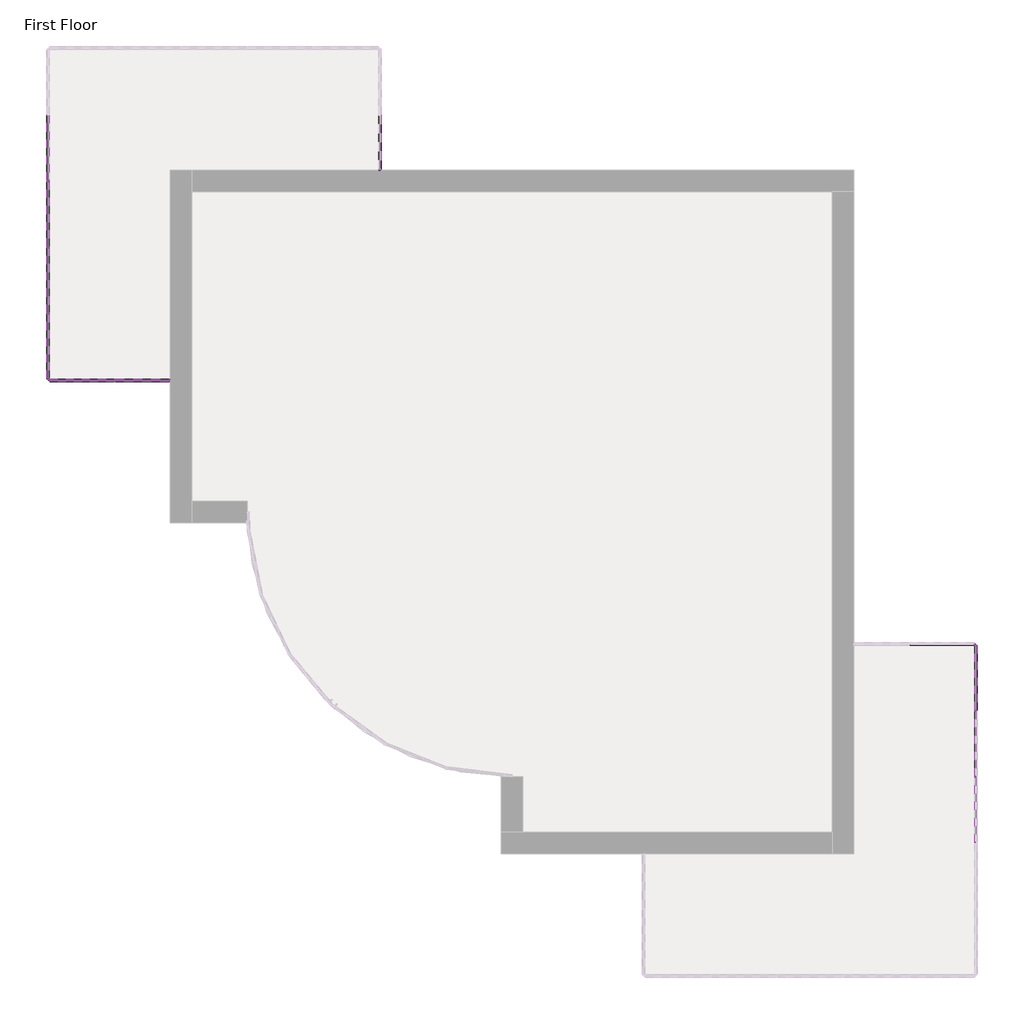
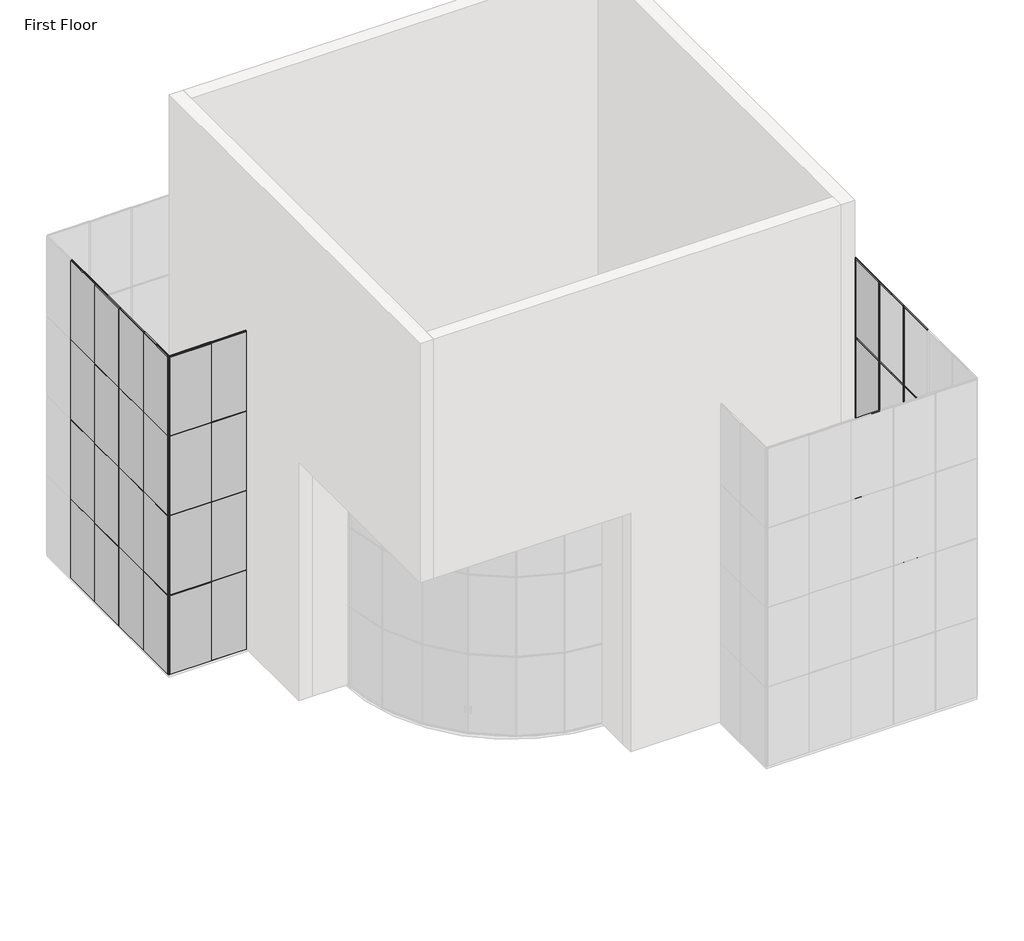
# One storey, part 3 of 4: 92 members, 32 plates.
"""IFC4 building model written with IfcOpenShell, lengths in millimetres."""

from ifc_helpers import new_model, si_unit, origin, place, context, project, spatial, transform, mapped, element, save
from components import member_40ce1a5c, member_5e617a80, member_0d8d9af5, member_74941792, member_cbdb9076, member_7e523723, member_9fd3d903, member_6604d1e0, member_be0b070d, system_panel_glazed_9b7d687a, system_panel_glazed_3ccd4ad1, system_panel_glazed_9a901b4a, system_panel_glazed_ee91e337, system_panel_glazed_2d5e1d3d, system_panel_glazed_37964ea6, system_panel_glazed_a669fc9f, system_panel_glazed_51c864c8

model = new_model("IFC4")

# Units and contexts
model_context = context("Model", 3, world=origin())
ifc_project = project(units=[si_unit("LENGTHUNIT", "METRE", prefix="MILLI")], contexts=[model_context])

# Site, building, storey
site = spatial("IfcSite", under=ifc_project)
building = spatial("IfcBuilding", under=site)
storey = spatial("IfcBuildingStorey", under=building, Name="First Floor", Elevation=0.0)

# Members
placement = place(None, origin())
member_shape = member_40ce1a5c(model_context)
element("IfcMember", 1, ObjectType="Rectangular Mullion : 1\" Square", at=placement, inside=storey, context=model_context, shape_type="MappedRepresentation", body=[
    mapped(member_shape, transform((-10360.9806157, 2362.0139224, 6096.0), x_axis=(0.0, 0.0, 1.0), y_axis=(0.0, -1.0, 0.0), z_axis=(1.0, 0.0, 0.0))),
])
element("IfcMember", 2, ObjectType="Rectangular Mullion : 1\" Square", at=placement, inside=storey, context=model_context, shape_type="MappedRepresentation", body=[
    mapped(member_shape, transform((-10360.9806157, 2362.0139224, 9144.0), x_axis=(0.0, 0.0, 1.0), y_axis=(0.0, -1.0, 0.0), z_axis=(1.0, 0.0, 0.0))),
])
element("IfcMember", 3, ObjectType="Rectangular Mullion : 1\" Square", at=placement, inside=storey, context=model_context, shape_type="MappedRepresentation", body=[
    mapped(member_shape, transform((-10360.9806157, 2362.0139224, 3048.0), x_axis=(0.0, 0.0, 1.0), y_axis=(0.0, -1.0, 0.0), z_axis=(1.0, 0.0, 0.0))),
])
member_2_shape = member_5e617a80(model_context)
element("IfcMember", 4, ObjectType="Rectangular Mullion : 1\" Square", at=placement, inside=storey, context=model_context, shape_type="MappedRepresentation", body=[
    mapped(member_2_shape, transform((-11627.8056157, 2362.0139224, 9144.0), x_axis=(0.0, 0.0, 1.0), y_axis=(0.0, -1.0, 0.0), z_axis=(1.0, 0.0, 0.0))),
])
element("IfcMember", 5, ObjectType="Rectangular Mullion : 1\" Square", at=placement, inside=storey, context=model_context, shape_type="MappedRepresentation", body=[
    mapped(member_2_shape, transform((-11627.8056157, 2362.0139224, 6096.0), x_axis=(0.0, 0.0, 1.0), y_axis=(0.0, -1.0, 0.0), z_axis=(1.0, 0.0, 0.0))),
])
element("IfcMember", 6, ObjectType="Rectangular Mullion : 1\" Square", at=placement, inside=storey, context=model_context, shape_type="MappedRepresentation", body=[
    mapped(member_2_shape, transform((-11627.8056157, 2362.0139224, 3048.0), x_axis=(0.0, 0.0, 1.0), y_axis=(0.0, -1.0, 0.0), z_axis=(1.0, 0.0, 0.0))),
])
element("IfcMember", 7, ObjectType="Rectangular Mullion : 1\" Square", at=placement, inside=storey, context=model_context, shape_type="MappedRepresentation", body=[
    mapped(member_2_shape, transform((-13139.1056157, 2387.4139224, 9144.0), x_axis=(0.0, 0.0, 1.0), y_axis=(-1.0, 0.0, 0.0), z_axis=(0.0, -1.0, 0.0))),
])
element("IfcMember", 8, ObjectType="Rectangular Mullion : 1\" Square", at=placement, inside=storey, context=model_context, shape_type="MappedRepresentation", body=[
    mapped(member_2_shape, transform((-13139.1056157, 2387.4139224, 3048.0), x_axis=(0.0, 0.0, 1.0), y_axis=(-1.0, 0.0, 0.0), z_axis=(0.0, -1.0, 0.0))),
])
element("IfcMember", 9, ObjectType="Rectangular Mullion : 1\" Square", at=placement, inside=storey, context=model_context, shape_type="MappedRepresentation", body=[
    mapped(member_2_shape, transform((-13139.1056157, 2387.4139224, 6096.0), x_axis=(0.0, 0.0, 1.0), y_axis=(-1.0, 0.0, 0.0), z_axis=(0.0, -1.0, 0.0))),
])
element("IfcMember", 10, ObjectType="Rectangular Mullion : 1\" Square", at=placement, inside=storey, context=model_context, shape_type="MappedRepresentation", body=[
    mapped(member_2_shape, transform((8196.8943843, -3759.3860776, 3048.0), x_axis=(0.0, 0.0, 1.0), y_axis=(1.0, 0.0, 0.0), z_axis=(0.0, 1.0, 0.0))),
])
element("IfcMember", 11, ObjectType="Rectangular Mullion : 1\" Square", at=placement, inside=storey, context=model_context, shape_type="MappedRepresentation", body=[
    mapped(member_2_shape, transform((8196.8943843, -3759.3860776, 6096.0), x_axis=(0.0, 0.0, 1.0), y_axis=(1.0, 0.0, 0.0), z_axis=(0.0, 1.0, 0.0))),
])
element("IfcMember", 12, ObjectType="Rectangular Mullion : 1\" Square", at=placement, inside=storey, context=model_context, shape_type="MappedRepresentation", body=[
    mapped(member_2_shape, transform((8196.8943843, -3759.3860776, 9144.0), x_axis=(0.0, 0.0, 1.0), y_axis=(1.0, 0.0, 0.0), z_axis=(0.0, 1.0, 0.0))),
])
member_3_shape = member_0d8d9af5(model_context)
element("IfcMember", 13, ObjectType="Rectangular Mullion : 1\" Square", at=placement, inside=storey, context=model_context, shape_type="MappedRepresentation", body=[
    mapped(member_3_shape, transform((-11602.4056157, 2362.0139224, 0.0), x_axis=(0.0, 0.0, -1.0), y_axis=(0.0, -1.0, 0.0), z_axis=(-1.0, 0.0, 0.0))),
])
member_4_shape = member_74941792(model_context)
element("IfcMember", 14, ObjectType="Rectangular Mullion : 1\" Square", at=placement, inside=storey, context=model_context, shape_type="MappedRepresentation", body=[
    mapped(member_4_shape, transform((-11627.8056157, 2362.0139224, 12192.0), x_axis=(0.0, 0.0, 1.0), y_axis=(0.0, -1.0, 0.0), z_axis=(1.0, 0.0, 0.0))),
])
element("IfcMember", 15, ObjectType="Rectangular Mullion : 1\" Square", at=placement, inside=storey, context=model_context, shape_type="MappedRepresentation", body=[
    mapped(member_4_shape, transform((-13139.1056157, 2387.4139224, 12192.0), x_axis=(0.0, 0.0, 1.0), y_axis=(-1.0, 0.0, 0.0), z_axis=(0.0, -1.0, 0.0))),
])
element("IfcMember", 16, ObjectType="Rectangular Mullion : 1\" Square", at=placement, inside=storey, context=model_context, shape_type="MappedRepresentation", body=[
    mapped(member_4_shape, transform((8196.8943843, -3759.3860776, 12192.0), x_axis=(0.0, 0.0, 1.0), y_axis=(1.0, 0.0, 0.0), z_axis=(0.0, 1.0, 0.0))),
])
member_5_shape = member_cbdb9076(model_context)
element("IfcMember", 17, ObjectType="Rectangular Mullion : 1\" Square", at=placement, inside=storey, context=model_context, shape_type="MappedRepresentation", body=[
    mapped(member_5_shape, transform((-11615.1056157, 2362.0139224, 3048.0), x_axis=(1.0, 0.0, 0.0), y_axis=(0.0, -1.0, 0.0), z_axis=(0.0, 0.0, -1.0))),
])
element("IfcMember", 18, ObjectType="Rectangular Mullion : 1\" Square", at=placement, inside=storey, context=model_context, shape_type="MappedRepresentation", body=[
    mapped(member_5_shape, transform((-11615.1056157, 2362.0139224, 6096.0), x_axis=(1.0, 0.0, 0.0), y_axis=(0.0, -1.0, 0.0), z_axis=(0.0, 0.0, -1.0))),
])
element("IfcMember", 19, ObjectType="Rectangular Mullion : 1\" Square", at=placement, inside=storey, context=model_context, shape_type="MappedRepresentation", body=[
    mapped(member_5_shape, transform((-13139.1056157, 6934.0139224, 3048.0), x_axis=(0.0, -1.0, 0.0), y_axis=(-1.0, 0.0, 0.0), z_axis=(0.0, 0.0, -1.0))),
])
element("IfcMember", 20, ObjectType="Rectangular Mullion : 1\" Square", at=placement, inside=storey, context=model_context, shape_type="MappedRepresentation", body=[
    mapped(member_5_shape, transform((-13139.1056157, 6934.0139224, 6096.0), x_axis=(0.0, -1.0, 0.0), y_axis=(-1.0, 0.0, 0.0), z_axis=(0.0, 0.0, -1.0))),
])
element("IfcMember", 21, ObjectType="Rectangular Mullion : 1\" Square", at=placement, inside=storey, context=model_context, shape_type="MappedRepresentation", body=[
    mapped(member_5_shape, transform((-13139.1056157, 5410.0139224, 3048.0), x_axis=(0.0, -1.0, 0.0), y_axis=(-1.0, 0.0, 0.0), z_axis=(0.0, 0.0, -1.0))),
])
element("IfcMember", 22, ObjectType="Rectangular Mullion : 1\" Square", at=placement, inside=storey, context=model_context, shape_type="MappedRepresentation", body=[
    mapped(member_5_shape, transform((-13139.1056157, 5410.0139224, 6096.0), x_axis=(0.0, -1.0, 0.0), y_axis=(-1.0, 0.0, 0.0), z_axis=(0.0, 0.0, -1.0))),
])
element("IfcMember", 23, ObjectType="Rectangular Mullion : 1\" Square", at=placement, inside=storey, context=model_context, shape_type="MappedRepresentation", body=[
    mapped(member_5_shape, transform((-13139.1056157, 3886.0139224, 3048.0), x_axis=(0.0, -1.0, 0.0), y_axis=(-1.0, 0.0, 0.0), z_axis=(0.0, 0.0, -1.0))),
])
element("IfcMember", 24, ObjectType="Rectangular Mullion : 1\" Square", at=placement, inside=storey, context=model_context, shape_type="MappedRepresentation", body=[
    mapped(member_5_shape, transform((-13139.1056157, 3886.0139224, 6096.0), x_axis=(0.0, -1.0, 0.0), y_axis=(-1.0, 0.0, 0.0), z_axis=(0.0, 0.0, -1.0))),
])
element("IfcMember", 25, ObjectType="Rectangular Mullion : 1\" Square", at=placement, inside=storey, context=model_context, shape_type="MappedRepresentation", body=[
    mapped(member_5_shape, transform((8196.8943843, -6781.9860776, 6096.0), x_axis=(0.0, 1.0, 0.0), y_axis=(1.0, 0.0, 0.0), z_axis=(0.0, 0.0, -1.0))),
])
element("IfcMember", 26, ObjectType="Rectangular Mullion : 1\" Square", at=placement, inside=storey, context=model_context, shape_type="MappedRepresentation", body=[
    mapped(member_5_shape, transform((8196.8943843, -5257.9860776, 3048.0), x_axis=(0.0, 1.0, 0.0), y_axis=(1.0, 0.0, 0.0), z_axis=(0.0, 0.0, -1.0))),
])
element("IfcMember", 27, ObjectType="Rectangular Mullion : 1\" Square", at=placement, inside=storey, context=model_context, shape_type="MappedRepresentation", body=[
    mapped(member_5_shape, transform((8196.8943843, -5257.9860776, 6096.0), x_axis=(0.0, 1.0, 0.0), y_axis=(1.0, 0.0, 0.0), z_axis=(0.0, 0.0, -1.0))),
])
element("IfcMember", 28, ObjectType="Rectangular Mullion : 1\" Square", at=placement, inside=storey, context=model_context, shape_type="MappedRepresentation", body=[
    mapped(member_5_shape, transform((-11615.1056157, 2362.0139224, 9144.0), x_axis=(1.0, 0.0, 0.0), y_axis=(0.0, -1.0, 0.0), z_axis=(0.0, 0.0, -1.0))),
])
element("IfcMember", 29, ObjectType="Rectangular Mullion : 1\" Square", at=placement, inside=storey, context=model_context, shape_type="MappedRepresentation", body=[
    mapped(member_5_shape, transform((-13139.1056157, 6934.0139224, 9144.0), x_axis=(0.0, -1.0, 0.0), y_axis=(-1.0, 0.0, 0.0), z_axis=(0.0, 0.0, -1.0))),
])
element("IfcMember", 30, ObjectType="Rectangular Mullion : 1\" Square", at=placement, inside=storey, context=model_context, shape_type="MappedRepresentation", body=[
    mapped(member_5_shape, transform((-13139.1056157, 5410.0139224, 9144.0), x_axis=(0.0, -1.0, 0.0), y_axis=(-1.0, 0.0, 0.0), z_axis=(0.0, 0.0, -1.0))),
])
element("IfcMember", 31, ObjectType="Rectangular Mullion : 1\" Square", at=placement, inside=storey, context=model_context, shape_type="MappedRepresentation", body=[
    mapped(member_5_shape, transform((-13139.1056157, 3886.0139224, 9144.0), x_axis=(0.0, -1.0, 0.0), y_axis=(-1.0, 0.0, 0.0), z_axis=(0.0, 0.0, -1.0))),
])
element("IfcMember", 32, ObjectType="Rectangular Mullion : 1\" Square", at=placement, inside=storey, context=model_context, shape_type="MappedRepresentation", body=[
    mapped(member_5_shape, transform((8196.8943843, -6781.9860776, 9144.0), x_axis=(0.0, 1.0, 0.0), y_axis=(1.0, 0.0, 0.0), z_axis=(0.0, 0.0, -1.0))),
])
element("IfcMember", 33, ObjectType="Rectangular Mullion : 1\" Square", at=placement, inside=storey, context=model_context, shape_type="MappedRepresentation", body=[
    mapped(member_5_shape, transform((8196.8943843, -5257.9860776, 9144.0), x_axis=(0.0, 1.0, 0.0), y_axis=(1.0, 0.0, 0.0), z_axis=(0.0, 0.0, -1.0))),
])
element("IfcMember", 34, ObjectType="Rectangular Mullion : 1\" Square", at=placement, inside=storey, context=model_context, shape_type="MappedRepresentation", body=[
    mapped(member_5_shape, transform((-11615.1056157, 2362.0139224, 0.0), x_axis=(1.0, 0.0, 0.0), y_axis=(0.0, -1.0, 0.0), z_axis=(0.0, 0.0, -1.0))),
])
element("IfcMember", 35, ObjectType="Rectangular Mullion : 1\" Square", at=placement, inside=storey, context=model_context, shape_type="MappedRepresentation", body=[
    mapped(member_5_shape, transform((-13139.1056157, 6934.0139224, 0.0), x_axis=(0.0, -1.0, 0.0), y_axis=(-1.0, 0.0, 0.0), z_axis=(0.0, 0.0, -1.0))),
])
element("IfcMember", 36, ObjectType="Rectangular Mullion : 1\" Square", at=placement, inside=storey, context=model_context, shape_type="MappedRepresentation", body=[
    mapped(member_5_shape, transform((-13139.1056157, 5410.0139224, 0.0), x_axis=(0.0, -1.0, 0.0), y_axis=(-1.0, 0.0, 0.0), z_axis=(0.0, 0.0, -1.0))),
])
element("IfcMember", 37, ObjectType="Rectangular Mullion : 1\" Square", at=placement, inside=storey, context=model_context, shape_type="MappedRepresentation", body=[
    mapped(member_5_shape, transform((-13139.1056157, 3886.0139224, 0.0), x_axis=(0.0, -1.0, 0.0), y_axis=(-1.0, 0.0, 0.0), z_axis=(0.0, 0.0, -1.0))),
])
element("IfcMember", 38, ObjectType="Rectangular Mullion : 1\" Square", at=placement, inside=storey, context=model_context, shape_type="MappedRepresentation", body=[
    mapped(member_5_shape, transform((8196.8943843, -6781.9860776, 0.0), x_axis=(0.0, 1.0, 0.0), y_axis=(1.0, 0.0, 0.0), z_axis=(0.0, 0.0, -1.0))),
])
element("IfcMember", 39, ObjectType="Rectangular Mullion : 1\" Square", at=placement, inside=storey, context=model_context, shape_type="MappedRepresentation", body=[
    mapped(member_5_shape, transform((8196.8943843, -5257.9860776, 0.0), x_axis=(0.0, 1.0, 0.0), y_axis=(1.0, 0.0, 0.0), z_axis=(0.0, 0.0, -1.0))),
])
element("IfcMember", 40, ObjectType="Rectangular Mullion : 1\" Square", at=placement, inside=storey, context=model_context, shape_type="MappedRepresentation", body=[
    mapped(member_4_shape, transform((-13113.7056157, 2362.0139224, 0.0), x_axis=(0.0, 0.0, -1.0), y_axis=(0.0, -1.0, 0.0), z_axis=(-1.0, 0.0, 0.0))),
])
element("IfcMember", 41, ObjectType="Rectangular Mullion : 1\" Square", at=placement, inside=storey, context=model_context, shape_type="MappedRepresentation", body=[
    mapped(member_4_shape, transform((-13139.1056157, 3873.3139224, 0.0), x_axis=(0.0, 0.0, -1.0), y_axis=(-1.0, 0.0, 0.0), z_axis=(0.0, 1.0, 0.0))),
])
element("IfcMember", 42, ObjectType="Rectangular Mullion : 1\" Square", at=placement, inside=storey, context=model_context, shape_type="MappedRepresentation", body=[
    mapped(member_4_shape, transform((8196.8943843, -5245.2860776, 0.0), x_axis=(0.0, 0.0, -1.0), y_axis=(1.0, 0.0, 0.0), z_axis=(0.0, -1.0, 0.0))),
])
element("IfcMember", 43, ObjectType="Rectangular Mullion : 1\" Square", at=placement, inside=storey, context=model_context, shape_type="MappedRepresentation", body=[
    mapped(member_4_shape, transform((8171.4943843, -3733.9860776, 0.0), x_axis=(0.0, 0.0, -1.0), y_axis=(0.0, 1.0, 0.0), z_axis=(1.0, 0.0, 0.0))),
])
element("IfcMember", 44, ObjectType="Rectangular Mullion : 1\" Square", at=placement, inside=storey, context=model_context, shape_type="MappedRepresentation", body=[
    mapped(member_3_shape, transform((-10360.9806157, 2362.0139224, 12192.0), x_axis=(0.0, 0.0, 1.0), y_axis=(0.0, -1.0, 0.0), z_axis=(1.0, 0.0, 0.0))),
])
member_6_shape = member_7e523723(model_context)
element("IfcMember", 45, ObjectType="Rectangular Mullion : 1\" Square", at=placement, inside=storey, context=model_context, shape_type="MappedRepresentation", body=[
    mapped(member_6_shape, transform((-13139.1056157, 2362.0139224, 12192.0), x_axis=(-1.0, 0.0, 0.0), y_axis=(0.0, -1.0, 0.0), z_axis=(0.0, 0.0, 1.0))),
])
element("IfcMember", 46, ObjectType="Rectangular Mullion : 1\" Square", at=placement, inside=storey, context=model_context, shape_type="MappedRepresentation", body=[
    mapped(member_6_shape, transform((8196.8943843, -3733.9860776, 12192.0), x_axis=(1.0, 0.0, 0.0), y_axis=(0.0, 1.0, 0.0), z_axis=(0.0, 0.0, 1.0))),
])
element("IfcMember", 47, ObjectType="Rectangular Mullion : 1\" Square", at=placement, inside=storey, context=model_context, shape_type="MappedRepresentation", body=[
    mapped(member_6_shape, transform((-5519.1056157, 7178.4889224, 12192.0), x_axis=(0.0, -1.0, 0.0), y_axis=(1.0, 0.0, 0.0), z_axis=(0.0, 0.0, 1.0))),
])
element("IfcMember", 48, ObjectType="Rectangular Mullion : 1\" Square", at=placement, inside=storey, context=model_context, shape_type="MappedRepresentation", body=[
    mapped(member_6_shape, transform((-10335.5806157, 2362.0139224, 3048.0), x_axis=(1.0, 0.0, 0.0), y_axis=(0.0, -1.0, 0.0), z_axis=(0.0, 0.0, -1.0))),
])
element("IfcMember", 49, ObjectType="Rectangular Mullion : 1\" Square", at=placement, inside=storey, context=model_context, shape_type="MappedRepresentation", body=[
    mapped(member_6_shape, transform((-10335.5806157, 2362.0139224, 6096.0), x_axis=(1.0, 0.0, 0.0), y_axis=(0.0, -1.0, 0.0), z_axis=(0.0, 0.0, -1.0))),
])
element("IfcMember", 50, ObjectType="Rectangular Mullion : 1\" Square", at=placement, inside=storey, context=model_context, shape_type="MappedRepresentation", body=[
    mapped(member_6_shape, transform((-13139.1056157, 2362.0139224, 3048.0), x_axis=(0.0, -1.0, 0.0), y_axis=(-1.0, 0.0, 0.0), z_axis=(0.0, 0.0, -1.0))),
])
element("IfcMember", 51, ObjectType="Rectangular Mullion : 1\" Square", at=placement, inside=storey, context=model_context, shape_type="MappedRepresentation", body=[
    mapped(member_6_shape, transform((-13139.1056157, 2362.0139224, 6096.0), x_axis=(0.0, -1.0, 0.0), y_axis=(-1.0, 0.0, 0.0), z_axis=(0.0, 0.0, -1.0))),
])
element("IfcMember", 52, ObjectType="Rectangular Mullion : 1\" Square", at=placement, inside=storey, context=model_context, shape_type="MappedRepresentation", body=[
    mapped(member_6_shape, transform((8196.8943843, -3733.9860776, 3048.0), x_axis=(0.0, 1.0, 0.0), y_axis=(1.0, 0.0, 0.0), z_axis=(0.0, 0.0, -1.0))),
])
element("IfcMember", 53, ObjectType="Rectangular Mullion : 1\" Square", at=placement, inside=storey, context=model_context, shape_type="MappedRepresentation", body=[
    mapped(member_6_shape, transform((8196.8943843, -3733.9860776, 6096.0), x_axis=(0.0, 1.0, 0.0), y_axis=(1.0, 0.0, 0.0), z_axis=(0.0, 0.0, -1.0))),
])
element("IfcMember", 54, ObjectType="Rectangular Mullion : 1\" Square", at=placement, inside=storey, context=model_context, shape_type="MappedRepresentation", body=[
    mapped(member_6_shape, transform((-10335.5806157, 2362.0139224, 9144.0), x_axis=(1.0, 0.0, 0.0), y_axis=(0.0, -1.0, 0.0), z_axis=(0.0, 0.0, -1.0))),
])
element("IfcMember", 55, ObjectType="Rectangular Mullion : 1\" Square", at=placement, inside=storey, context=model_context, shape_type="MappedRepresentation", body=[
    mapped(member_6_shape, transform((-13139.1056157, 2362.0139224, 9144.0), x_axis=(0.0, -1.0, 0.0), y_axis=(-1.0, 0.0, 0.0), z_axis=(0.0, 0.0, -1.0))),
])
element("IfcMember", 56, ObjectType="Rectangular Mullion : 1\" Square", at=placement, inside=storey, context=model_context, shape_type="MappedRepresentation", body=[
    mapped(member_6_shape, transform((8196.8943843, -3733.9860776, 9144.0), x_axis=(0.0, 1.0, 0.0), y_axis=(1.0, 0.0, 0.0), z_axis=(0.0, 0.0, -1.0))),
])
element("IfcMember", 57, ObjectType="Rectangular Mullion : 1\" Square", at=placement, inside=storey, context=model_context, shape_type="MappedRepresentation", body=[
    mapped(member_6_shape, transform((-13139.1056157, 2362.0139224, 3048.0), x_axis=(-1.0, 0.0, 0.0), y_axis=(0.0, -1.0, 0.0), z_axis=(0.0, 0.0, 1.0))),
])
element("IfcMember", 58, ObjectType="Rectangular Mullion : 1\" Square", at=placement, inside=storey, context=model_context, shape_type="MappedRepresentation", body=[
    mapped(member_6_shape, transform((8196.8943843, -3733.9860776, 3048.0), x_axis=(1.0, 0.0, 0.0), y_axis=(0.0, 1.0, 0.0), z_axis=(0.0, 0.0, 1.0))),
])
element("IfcMember", 59, ObjectType="Rectangular Mullion : 1\" Square", at=placement, inside=storey, context=model_context, shape_type="MappedRepresentation", body=[
    mapped(member_6_shape, transform((-5519.1056157, 7178.4889224, 3048.0), x_axis=(0.0, -1.0, 0.0), y_axis=(1.0, 0.0, 0.0), z_axis=(0.0, 0.0, 1.0))),
])
element("IfcMember", 60, ObjectType="Rectangular Mullion : 1\" Square", at=placement, inside=storey, context=model_context, shape_type="MappedRepresentation", body=[
    mapped(member_6_shape, transform((-13139.1056157, 2362.0139224, 6096.0), x_axis=(-1.0, 0.0, 0.0), y_axis=(0.0, -1.0, 0.0), z_axis=(0.0, 0.0, 1.0))),
])
element("IfcMember", 61, ObjectType="Rectangular Mullion : 1\" Square", at=placement, inside=storey, context=model_context, shape_type="MappedRepresentation", body=[
    mapped(member_6_shape, transform((-13139.1056157, 2362.0139224, 9144.0), x_axis=(-1.0, 0.0, 0.0), y_axis=(0.0, -1.0, 0.0), z_axis=(0.0, 0.0, 1.0))),
])
element("IfcMember", 62, ObjectType="Rectangular Mullion : 1\" Square", at=placement, inside=storey, context=model_context, shape_type="MappedRepresentation", body=[
    mapped(member_6_shape, transform((8196.8943843, -3733.9860776, 6096.0), x_axis=(1.0, 0.0, 0.0), y_axis=(0.0, 1.0, 0.0), z_axis=(0.0, 0.0, 1.0))),
])
element("IfcMember", 63, ObjectType="Rectangular Mullion : 1\" Square", at=placement, inside=storey, context=model_context, shape_type="MappedRepresentation", body=[
    mapped(member_6_shape, transform((8196.8943843, -3733.9860776, 9144.0), x_axis=(1.0, 0.0, 0.0), y_axis=(0.0, 1.0, 0.0), z_axis=(0.0, 0.0, 1.0))),
])
element("IfcMember", 64, ObjectType="Rectangular Mullion : 1\" Square", at=placement, inside=storey, context=model_context, shape_type="MappedRepresentation", body=[
    mapped(member_6_shape, transform((-5519.1056157, 7178.4889224, 6096.0), x_axis=(0.0, -1.0, 0.0), y_axis=(1.0, 0.0, 0.0), z_axis=(0.0, 0.0, 1.0))),
])
element("IfcMember", 65, ObjectType="Rectangular Mullion : 1\" Square", at=placement, inside=storey, context=model_context, shape_type="MappedRepresentation", body=[
    mapped(member_6_shape, transform((-5519.1056157, 7178.4889224, 9144.0), x_axis=(0.0, -1.0, 0.0), y_axis=(1.0, 0.0, 0.0), z_axis=(0.0, 0.0, 1.0))),
])
element("IfcMember", 66, ObjectType="Rectangular Mullion : 1\" Square", at=placement, inside=storey, context=model_context, shape_type="MappedRepresentation", body=[
    mapped(member_6_shape, transform((-10335.5806157, 2362.0139224, 0.0), x_axis=(1.0, 0.0, 0.0), y_axis=(0.0, -1.0, 0.0), z_axis=(0.0, 0.0, -1.0))),
])
element("IfcMember", 67, ObjectType="Rectangular Mullion : 1\" Square", at=placement, inside=storey, context=model_context, shape_type="MappedRepresentation", body=[
    mapped(member_6_shape, transform((-13139.1056157, 2362.0139224, 0.0), x_axis=(0.0, -1.0, 0.0), y_axis=(-1.0, 0.0, 0.0), z_axis=(0.0, 0.0, -1.0))),
])
element("IfcMember", 68, ObjectType="Rectangular Mullion : 1\" Square", at=placement, inside=storey, context=model_context, shape_type="MappedRepresentation", body=[
    mapped(member_6_shape, transform((8196.8943843, -3733.9860776, 0.0), x_axis=(0.0, 1.0, 0.0), y_axis=(1.0, 0.0, 0.0), z_axis=(0.0, 0.0, -1.0))),
])
member_7_shape = member_9fd3d903(model_context)
element("IfcMember", 69, ObjectType="Rectangular Mullion : 1\" Square", at=placement, inside=storey, context=model_context, shape_type="MappedRepresentation", body=[
    mapped(member_7_shape, transform((-13139.1056157, 6946.7139224, 3048.0), x_axis=(0.0, 0.0, 1.0), y_axis=(-1.0, 0.0, 0.0), z_axis=(0.0, -1.0, 0.0))),
])
element("IfcMember", 70, ObjectType="Rectangular Mullion : 1\" Square", at=placement, inside=storey, context=model_context, shape_type="MappedRepresentation", body=[
    mapped(member_7_shape, transform((-13139.1056157, 5422.7139224, 3048.0), x_axis=(0.0, 0.0, 1.0), y_axis=(-1.0, 0.0, 0.0), z_axis=(0.0, -1.0, 0.0))),
])
element("IfcMember", 71, ObjectType="Rectangular Mullion : 1\" Square", at=placement, inside=storey, context=model_context, shape_type="MappedRepresentation", body=[
    mapped(member_7_shape, transform((-13139.1056157, 3898.7139224, 3048.0), x_axis=(0.0, 0.0, 1.0), y_axis=(-1.0, 0.0, 0.0), z_axis=(0.0, -1.0, 0.0))),
])
element("IfcMember", 72, ObjectType="Rectangular Mullion : 1\" Square", at=placement, inside=storey, context=model_context, shape_type="MappedRepresentation", body=[
    mapped(member_7_shape, transform((-13139.1056157, 6946.7139224, 6096.0), x_axis=(0.0, 0.0, 1.0), y_axis=(-1.0, 0.0, 0.0), z_axis=(0.0, -1.0, 0.0))),
])
element("IfcMember", 73, ObjectType="Rectangular Mullion : 1\" Square", at=placement, inside=storey, context=model_context, shape_type="MappedRepresentation", body=[
    mapped(member_7_shape, transform((-13139.1056157, 5422.7139224, 6096.0), x_axis=(0.0, 0.0, 1.0), y_axis=(-1.0, 0.0, 0.0), z_axis=(0.0, -1.0, 0.0))),
])
element("IfcMember", 74, ObjectType="Rectangular Mullion : 1\" Square", at=placement, inside=storey, context=model_context, shape_type="MappedRepresentation", body=[
    mapped(member_7_shape, transform((-13139.1056157, 3898.7139224, 6096.0), x_axis=(0.0, 0.0, 1.0), y_axis=(-1.0, 0.0, 0.0), z_axis=(0.0, -1.0, 0.0))),
])
element("IfcMember", 75, ObjectType="Rectangular Mullion : 1\" Square", at=placement, inside=storey, context=model_context, shape_type="MappedRepresentation", body=[
    mapped(member_7_shape, transform((-13139.1056157, 6946.7139224, 9144.0), x_axis=(0.0, 0.0, 1.0), y_axis=(-1.0, 0.0, 0.0), z_axis=(0.0, -1.0, 0.0))),
])
element("IfcMember", 76, ObjectType="Rectangular Mullion : 1\" Square", at=placement, inside=storey, context=model_context, shape_type="MappedRepresentation", body=[
    mapped(member_7_shape, transform((-13139.1056157, 5422.7139224, 9144.0), x_axis=(0.0, 0.0, 1.0), y_axis=(-1.0, 0.0, 0.0), z_axis=(0.0, -1.0, 0.0))),
])
element("IfcMember", 77, ObjectType="Rectangular Mullion : 1\" Square", at=placement, inside=storey, context=model_context, shape_type="MappedRepresentation", body=[
    mapped(member_7_shape, transform((-13139.1056157, 3898.7139224, 9144.0), x_axis=(0.0, 0.0, 1.0), y_axis=(-1.0, 0.0, 0.0), z_axis=(0.0, -1.0, 0.0))),
])
element("IfcMember", 78, ObjectType="Rectangular Mullion : 1\" Square", at=placement, inside=storey, context=model_context, shape_type="MappedRepresentation", body=[
    mapped(member_7_shape, transform((8196.8943843, -6794.6860776, 3048.0), x_axis=(0.0, 0.0, 1.0), y_axis=(1.0, 0.0, 0.0), z_axis=(0.0, 1.0, 0.0))),
])
element("IfcMember", 79, ObjectType="Rectangular Mullion : 1\" Square", at=placement, inside=storey, context=model_context, shape_type="MappedRepresentation", body=[
    mapped(member_7_shape, transform((8196.8943843, -5270.6860776, 3048.0), x_axis=(0.0, 0.0, 1.0), y_axis=(1.0, 0.0, 0.0), z_axis=(0.0, 1.0, 0.0))),
])
element("IfcMember", 80, ObjectType="Rectangular Mullion : 1\" Square", at=placement, inside=storey, context=model_context, shape_type="MappedRepresentation", body=[
    mapped(member_7_shape, transform((8196.8943843, -6794.6860776, 6096.0), x_axis=(0.0, 0.0, 1.0), y_axis=(1.0, 0.0, 0.0), z_axis=(0.0, 1.0, 0.0))),
])
element("IfcMember", 81, ObjectType="Rectangular Mullion : 1\" Square", at=placement, inside=storey, context=model_context, shape_type="MappedRepresentation", body=[
    mapped(member_7_shape, transform((8196.8943843, -5270.6860776, 6096.0), x_axis=(0.0, 0.0, 1.0), y_axis=(1.0, 0.0, 0.0), z_axis=(0.0, 1.0, 0.0))),
])
element("IfcMember", 82, ObjectType="Rectangular Mullion : 1\" Square", at=placement, inside=storey, context=model_context, shape_type="MappedRepresentation", body=[
    mapped(member_7_shape, transform((8196.8943843, -6794.6860776, 9144.0), x_axis=(0.0, 0.0, 1.0), y_axis=(1.0, 0.0, 0.0), z_axis=(0.0, 1.0, 0.0))),
])
element("IfcMember", 83, ObjectType="Rectangular Mullion : 1\" Square", at=placement, inside=storey, context=model_context, shape_type="MappedRepresentation", body=[
    mapped(member_7_shape, transform((8196.8943843, -5270.6860776, 9144.0), x_axis=(0.0, 0.0, 1.0), y_axis=(1.0, 0.0, 0.0), z_axis=(0.0, 1.0, 0.0))),
])
member_8_shape = member_6604d1e0(model_context)
element("IfcMember", 84, ObjectType="Rectangular Mullion : 1\" Square", at=placement, inside=storey, context=model_context, shape_type="MappedRepresentation", body=[
    mapped(member_8_shape, transform((-13139.1056157, 3898.7139224, 12192.0), x_axis=(0.0, 0.0, 1.0), y_axis=(-1.0, 0.0, 0.0), z_axis=(0.0, -1.0, 0.0))),
])
element("IfcMember", 85, ObjectType="Rectangular Mullion : 1\" Square", at=placement, inside=storey, context=model_context, shape_type="MappedRepresentation", body=[
    mapped(member_8_shape, transform((-13139.1056157, 6946.7139224, 12192.0), x_axis=(0.0, 0.0, 1.0), y_axis=(-1.0, 0.0, 0.0), z_axis=(0.0, -1.0, 0.0))),
])
element("IfcMember", 86, ObjectType="Rectangular Mullion : 1\" Square", at=placement, inside=storey, context=model_context, shape_type="MappedRepresentation", body=[
    mapped(member_8_shape, transform((-13139.1056157, 5422.7139224, 12192.0), x_axis=(0.0, 0.0, 1.0), y_axis=(-1.0, 0.0, 0.0), z_axis=(0.0, -1.0, 0.0))),
])
element("IfcMember", 87, ObjectType="Rectangular Mullion : 1\" Square", at=placement, inside=storey, context=model_context, shape_type="MappedRepresentation", body=[
    mapped(member_8_shape, transform((8196.8943843, -6794.6860776, 12192.0), x_axis=(0.0, 0.0, 1.0), y_axis=(1.0, 0.0, 0.0), z_axis=(0.0, 1.0, 0.0))),
])
element("IfcMember", 88, ObjectType="Rectangular Mullion : 1\" Square", at=placement, inside=storey, context=model_context, shape_type="MappedRepresentation", body=[
    mapped(member_8_shape, transform((8196.8943843, -5270.6860776, 12192.0), x_axis=(0.0, 0.0, 1.0), y_axis=(1.0, 0.0, 0.0), z_axis=(0.0, 1.0, 0.0))),
])
element("IfcMember", 89, ObjectType="Rectangular Mullion : 1\" Square", at=placement, inside=storey, context=model_context, shape_type="MappedRepresentation", body=[
    mapped(member_8_shape, transform((-13139.1056157, 6921.3139224, 0.0), x_axis=(0.0, 0.0, -1.0), y_axis=(-1.0, 0.0, 0.0), z_axis=(0.0, 1.0, 0.0))),
])
element("IfcMember", 90, ObjectType="Rectangular Mullion : 1\" Square", at=placement, inside=storey, context=model_context, shape_type="MappedRepresentation", body=[
    mapped(member_8_shape, transform((-13139.1056157, 5397.3139224, 0.0), x_axis=(0.0, 0.0, -1.0), y_axis=(-1.0, 0.0, 0.0), z_axis=(0.0, 1.0, 0.0))),
])
element("IfcMember", 91, ObjectType="Rectangular Mullion : 1\" Square", at=placement, inside=storey, context=model_context, shape_type="MappedRepresentation", body=[
    mapped(member_8_shape, transform((8196.8943843, -6769.2860776, 0.0), x_axis=(0.0, 0.0, -1.0), y_axis=(1.0, 0.0, 0.0), z_axis=(0.0, -1.0, 0.0))),
])
member_9_shape = member_be0b070d(model_context)
element("IfcMember", 92, ObjectType="Rectangular Mullion : 1\" Square", at=placement, inside=storey, context=model_context, shape_type="MappedRepresentation", body=[
    mapped(member_9_shape, transform((-5519.1056157, 7203.8889224, 0.0), x_axis=(0.0, 0.0, -1.0), y_axis=(1.0, 0.0, 0.0), z_axis=(0.0, -1.0, 0.0))),
])

# Plates
system_panel_glazed_shape = system_panel_glazed_9b7d687a(model_context)
element("IfcPlate", 93, ObjectType="System Panel : Glazed", at=placement, inside=storey, context=model_context, shape_type="MappedRepresentation", body=[
    mapped(system_panel_glazed_shape, transform((-13139.1056157, 3130.3639224, 25.4), x_axis=(0.0, -1.0, 0.0), y_axis=(1.0, 0.0, 0.0), z_axis=(0.0, 0.0, 1.0))),
])
element("IfcPlate", 94, ObjectType="System Panel : Glazed", at=placement, inside=storey, context=model_context, shape_type="MappedRepresentation", body=[
    mapped(system_panel_glazed_shape, transform((-13139.1056157, 3130.3639224, 9156.7), x_axis=(0.0, -1.0, 0.0), y_axis=(1.0, 0.0, 0.0), z_axis=(0.0, 0.0, 1.0))),
])
element("IfcPlate", 95, ObjectType="System Panel : Glazed", at=placement, inside=storey, context=model_context, shape_type="MappedRepresentation", body=[
    mapped(system_panel_glazed_shape, transform((-12370.7556157, 2362.0139224, 25.4), x_axis=(1.0, 0.0, 0.0), y_axis=(0.0, 1.0, 0.0), z_axis=(0.0, 0.0, 1.0))),
])
element("IfcPlate", 96, ObjectType="System Panel : Glazed", at=placement, inside=storey, context=model_context, shape_type="MappedRepresentation", body=[
    mapped(system_panel_glazed_shape, transform((-12370.7556157, 2362.0139224, 9156.7), x_axis=(1.0, 0.0, 0.0), y_axis=(0.0, 1.0, 0.0), z_axis=(0.0, 0.0, 1.0))),
])
element("IfcPlate", 97, ObjectType="System Panel : Glazed", at=placement, inside=storey, context=model_context, shape_type="MappedRepresentation", body=[
    mapped(system_panel_glazed_shape, transform((8196.8943843, -4502.3360776, 25.4), x_axis=(0.0, 1.0, 0.0), y_axis=(-1.0, 0.0, 0.0), z_axis=(0.0, 0.0, 1.0))),
])
element("IfcPlate", 98, ObjectType="System Panel : Glazed", at=placement, inside=storey, context=model_context, shape_type="MappedRepresentation", body=[
    mapped(system_panel_glazed_shape, transform((8196.8943843, -4502.3360776, 9156.7), x_axis=(0.0, 1.0, 0.0), y_axis=(-1.0, 0.0, 0.0), z_axis=(0.0, 0.0, 1.0))),
])
system_panel_glazed_2_shape = system_panel_glazed_3ccd4ad1(model_context)
element("IfcPlate", 99, ObjectType="System Panel : Glazed", at=placement, inside=storey, context=model_context, shape_type="MappedRepresentation", body=[
    mapped(system_panel_glazed_2_shape, transform((-10981.6931157, 2362.0139224, 25.4), x_axis=(1.0, 0.0, 0.0), y_axis=(0.0, 1.0, 0.0), z_axis=(0.0, 0.0, 1.0))),
])
element("IfcPlate", 100, ObjectType="System Panel : Glazed", at=placement, inside=storey, context=model_context, shape_type="MappedRepresentation", body=[
    mapped(system_panel_glazed_2_shape, transform((-10981.6931157, 2362.0139224, 9156.7), x_axis=(1.0, 0.0, 0.0), y_axis=(0.0, 1.0, 0.0), z_axis=(0.0, 0.0, 1.0))),
])
system_panel_glazed_3_shape = system_panel_glazed_9a901b4a(model_context)
element("IfcPlate", 101, ObjectType="System Panel : Glazed", at=placement, inside=storey, context=model_context, shape_type="MappedRepresentation", body=[
    mapped(system_panel_glazed_3_shape, transform((-13139.1056157, 3130.3639224, 3060.7), x_axis=(0.0, -1.0, 0.0), y_axis=(1.0, 0.0, 0.0), z_axis=(0.0, 0.0, 1.0))),
])
element("IfcPlate", 102, ObjectType="System Panel : Glazed", at=placement, inside=storey, context=model_context, shape_type="MappedRepresentation", body=[
    mapped(system_panel_glazed_3_shape, transform((-13139.1056157, 3130.3639224, 6108.7), x_axis=(0.0, -1.0, 0.0), y_axis=(1.0, 0.0, 0.0), z_axis=(0.0, 0.0, 1.0))),
])
element("IfcPlate", 103, ObjectType="System Panel : Glazed", at=placement, inside=storey, context=model_context, shape_type="MappedRepresentation", body=[
    mapped(system_panel_glazed_3_shape, transform((-12370.7556157, 2362.0139224, 3060.7), x_axis=(1.0, 0.0, 0.0), y_axis=(0.0, 1.0, 0.0), z_axis=(0.0, 0.0, 1.0))),
])
element("IfcPlate", 104, ObjectType="System Panel : Glazed", at=placement, inside=storey, context=model_context, shape_type="MappedRepresentation", body=[
    mapped(system_panel_glazed_3_shape, transform((-12370.7556157, 2362.0139224, 6108.7), x_axis=(1.0, 0.0, 0.0), y_axis=(0.0, 1.0, 0.0), z_axis=(0.0, 0.0, 1.0))),
])
element("IfcPlate", 105, ObjectType="System Panel : Glazed", at=placement, inside=storey, context=model_context, shape_type="MappedRepresentation", body=[
    mapped(system_panel_glazed_3_shape, transform((8196.8943843, -4502.3360776, 3060.7), x_axis=(0.0, 1.0, 0.0), y_axis=(-1.0, 0.0, 0.0), z_axis=(0.0, 0.0, 1.0))),
])
element("IfcPlate", 106, ObjectType="System Panel : Glazed", at=placement, inside=storey, context=model_context, shape_type="MappedRepresentation", body=[
    mapped(system_panel_glazed_3_shape, transform((8196.8943843, -4502.3360776, 6108.7), x_axis=(0.0, 1.0, 0.0), y_axis=(-1.0, 0.0, 0.0), z_axis=(0.0, 0.0, 1.0))),
])
system_panel_glazed_4_shape = system_panel_glazed_ee91e337(model_context)
element("IfcPlate", 107, ObjectType="System Panel : Glazed", at=placement, inside=storey, context=model_context, shape_type="MappedRepresentation", body=[
    mapped(system_panel_glazed_4_shape, transform((-10981.6931157, 2362.0139224, 3060.7), x_axis=(1.0, 0.0, 0.0), y_axis=(0.0, 1.0, 0.0), z_axis=(0.0, 0.0, 1.0))),
])
element("IfcPlate", 108, ObjectType="System Panel : Glazed", at=placement, inside=storey, context=model_context, shape_type="MappedRepresentation", body=[
    mapped(system_panel_glazed_4_shape, transform((-10981.6931157, 2362.0139224, 6108.7), x_axis=(1.0, 0.0, 0.0), y_axis=(0.0, 1.0, 0.0), z_axis=(0.0, 0.0, 1.0))),
])
system_panel_glazed_5_shape = system_panel_glazed_2d5e1d3d(model_context)
element("IfcPlate", 109, ObjectType="System Panel : Glazed", at=placement, inside=storey, context=model_context, shape_type="MappedRepresentation", body=[
    mapped(system_panel_glazed_5_shape, transform((-13139.1056157, 7696.0139224, 25.4), x_axis=(0.0, -1.0, 0.0), y_axis=(1.0, 0.0, 0.0), z_axis=(0.0, 0.0, 1.0))),
])
element("IfcPlate", 110, ObjectType="System Panel : Glazed", at=placement, inside=storey, context=model_context, shape_type="MappedRepresentation", body=[
    mapped(system_panel_glazed_5_shape, transform((-13139.1056157, 6172.0139224, 25.4), x_axis=(0.0, -1.0, 0.0), y_axis=(1.0, 0.0, 0.0), z_axis=(0.0, 0.0, 1.0))),
])
element("IfcPlate", 111, ObjectType="System Panel : Glazed", at=placement, inside=storey, context=model_context, shape_type="MappedRepresentation", body=[
    mapped(system_panel_glazed_5_shape, transform((-13139.1056157, 4648.0139224, 25.4), x_axis=(0.0, -1.0, 0.0), y_axis=(1.0, 0.0, 0.0), z_axis=(0.0, 0.0, 1.0))),
])
element("IfcPlate", 112, ObjectType="System Panel : Glazed", at=placement, inside=storey, context=model_context, shape_type="MappedRepresentation", body=[
    mapped(system_panel_glazed_5_shape, transform((-13139.1056157, 7696.0139224, 9156.7), x_axis=(0.0, -1.0, 0.0), y_axis=(1.0, 0.0, 0.0), z_axis=(0.0, 0.0, 1.0))),
])
element("IfcPlate", 113, ObjectType="System Panel : Glazed", at=placement, inside=storey, context=model_context, shape_type="MappedRepresentation", body=[
    mapped(system_panel_glazed_5_shape, transform((-13139.1056157, 6172.0139224, 9156.7), x_axis=(0.0, -1.0, 0.0), y_axis=(1.0, 0.0, 0.0), z_axis=(0.0, 0.0, 1.0))),
])
element("IfcPlate", 114, ObjectType="System Panel : Glazed", at=placement, inside=storey, context=model_context, shape_type="MappedRepresentation", body=[
    mapped(system_panel_glazed_5_shape, transform((-13139.1056157, 4648.0139224, 9156.7), x_axis=(0.0, -1.0, 0.0), y_axis=(1.0, 0.0, 0.0), z_axis=(0.0, 0.0, 1.0))),
])
system_panel_glazed_6_shape = system_panel_glazed_37964ea6(model_context)
element("IfcPlate", 115, ObjectType="System Panel : Glazed", at=placement, inside=storey, context=model_context, shape_type="MappedRepresentation", body=[
    mapped(system_panel_glazed_6_shape, transform((-13139.1056157, 7696.0139224, 3060.7), x_axis=(0.0, -1.0, 0.0), y_axis=(1.0, 0.0, 0.0), z_axis=(0.0, 0.0, 1.0))),
])
element("IfcPlate", 116, ObjectType="System Panel : Glazed", at=placement, inside=storey, context=model_context, shape_type="MappedRepresentation", body=[
    mapped(system_panel_glazed_6_shape, transform((-13139.1056157, 6172.0139224, 3060.7), x_axis=(0.0, -1.0, 0.0), y_axis=(1.0, 0.0, 0.0), z_axis=(0.0, 0.0, 1.0))),
])
element("IfcPlate", 117, ObjectType="System Panel : Glazed", at=placement, inside=storey, context=model_context, shape_type="MappedRepresentation", body=[
    mapped(system_panel_glazed_6_shape, transform((-13139.1056157, 4648.0139224, 3060.7), x_axis=(0.0, -1.0, 0.0), y_axis=(1.0, 0.0, 0.0), z_axis=(0.0, 0.0, 1.0))),
])
element("IfcPlate", 118, ObjectType="System Panel : Glazed", at=placement, inside=storey, context=model_context, shape_type="MappedRepresentation", body=[
    mapped(system_panel_glazed_6_shape, transform((-13139.1056157, 7696.0139224, 6108.7), x_axis=(0.0, -1.0, 0.0), y_axis=(1.0, 0.0, 0.0), z_axis=(0.0, 0.0, 1.0))),
])
element("IfcPlate", 119, ObjectType="System Panel : Glazed", at=placement, inside=storey, context=model_context, shape_type="MappedRepresentation", body=[
    mapped(system_panel_glazed_6_shape, transform((-13139.1056157, 6172.0139224, 6108.7), x_axis=(0.0, -1.0, 0.0), y_axis=(1.0, 0.0, 0.0), z_axis=(0.0, 0.0, 1.0))),
])
element("IfcPlate", 120, ObjectType="System Panel : Glazed", at=placement, inside=storey, context=model_context, shape_type="MappedRepresentation", body=[
    mapped(system_panel_glazed_6_shape, transform((-13139.1056157, 4648.0139224, 6108.7), x_axis=(0.0, -1.0, 0.0), y_axis=(1.0, 0.0, 0.0), z_axis=(0.0, 0.0, 1.0))),
])
system_panel_glazed_7_shape = system_panel_glazed_a669fc9f(model_context)
element("IfcPlate", 121, ObjectType="System Panel : Glazed", at=placement, inside=storey, context=model_context, shape_type="MappedRepresentation", body=[
    mapped(system_panel_glazed_7_shape, transform((-5519.1056157, 7823.0139224, 25.4), x_axis=(0.0, 1.0, 0.0), y_axis=(-1.0, 0.0, 0.0), z_axis=(0.0, 0.0, 1.0))),
])
element("IfcPlate", 122, ObjectType="System Panel : Glazed", at=placement, inside=storey, context=model_context, shape_type="MappedRepresentation", body=[
    mapped(system_panel_glazed_7_shape, transform((-5519.1056157, 7823.0139224, 9156.7), x_axis=(0.0, 1.0, 0.0), y_axis=(-1.0, 0.0, 0.0), z_axis=(0.0, 0.0, 1.0))),
])
system_panel_glazed_8_shape = system_panel_glazed_51c864c8(model_context)
element("IfcPlate", 123, ObjectType="System Panel : Glazed", at=placement, inside=storey, context=model_context, shape_type="MappedRepresentation", body=[
    mapped(system_panel_glazed_8_shape, transform((-5519.1056157, 7823.0139224, 3060.7), x_axis=(0.0, 1.0, 0.0), y_axis=(-1.0, 0.0, 0.0), z_axis=(0.0, 0.0, 1.0))),
])
element("IfcPlate", 124, ObjectType="System Panel : Glazed", at=placement, inside=storey, context=model_context, shape_type="MappedRepresentation", body=[
    mapped(system_panel_glazed_8_shape, transform((-5519.1056157, 7823.0139224, 6108.7), x_axis=(0.0, 1.0, 0.0), y_axis=(-1.0, 0.0, 0.0), z_axis=(0.0, 0.0, 1.0))),
])

save(model, "model.ifc")
